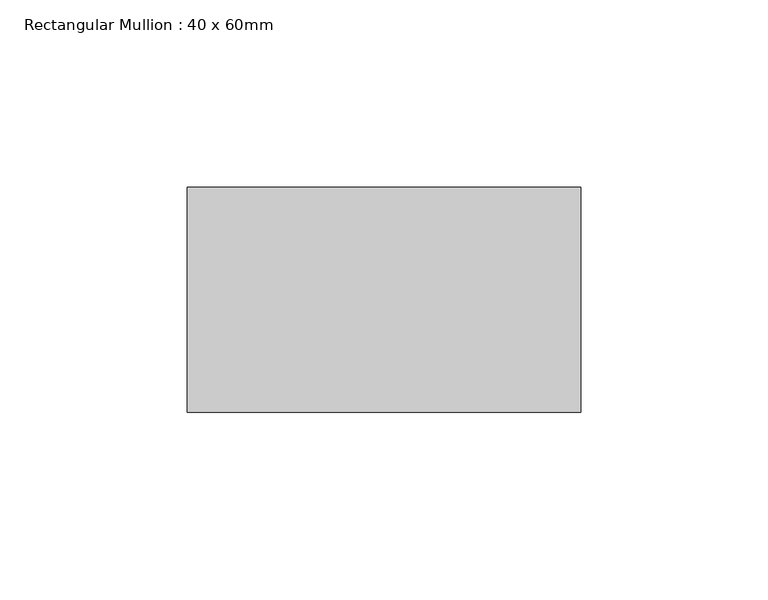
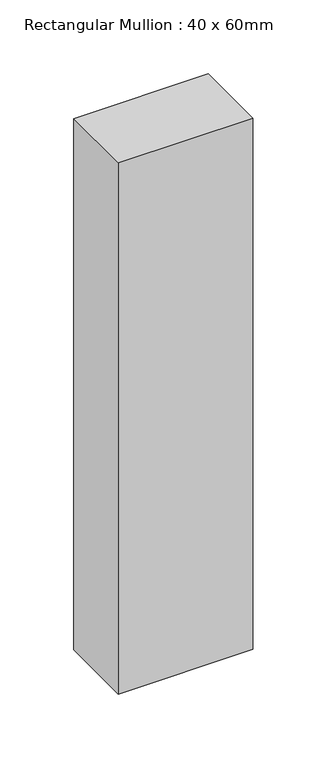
"""IFC4 building model written with IfcOpenShell, lengths in millimetres: member geometry, Rectangular Mullion : 40 x 60mm."""

from ifc_helpers import new_model, si_unit, frame, origin, place, context, project, spatial, polyline, outline, extrude, source, transform, mapped, element, save


def rectangular_mullion_40_x_60mm_73527862(model_context):
    return source(origin(), model_context, "Body", "SweptSolid", [
        extrude(outline(polyline([(0.0, -10.0), (0.0, -70.0), (-105.0, -70.0), (-105.0, -10.0), (0.0, -10.0)])), frame((0.0, 0.0, -438.536359), z_axis=(0.0, 0.0, 1.0), x_axis=(1.0, 0.0, 0.0)), (0.0, 0.0, 1.0), 438.536359),
    ])


if __name__ == "__main__":
    model = new_model("IFC4")
    model_context = context("Model", 3, world=origin())
    ifc_project = project(units=[si_unit("LENGTHUNIT", "METRE", prefix="MILLI")], contexts=[model_context])
    site = spatial("IfcSite", under=ifc_project)
    building = spatial("IfcBuilding", under=site)
    placement = place(None, origin())
    rectangular_mullion_40_x_60mm_shape = rectangular_mullion_40_x_60mm_73527862(model_context)
    element("IfcMember", 1, ObjectType="Rectangular Mullion : 40 x 60mm", at=placement, inside=building, context=model_context, shape_type="MappedRepresentation", body=[
        mapped(rectangular_mullion_40_x_60mm_shape, transform((0.0, 0.0, 0.0), x_axis=(1.0, 0.0, 0.0), y_axis=(0.0, 1.0, 0.0), z_axis=(0.0, 0.0, 1.0))),
    ])
    save(model, "model.ifc")
